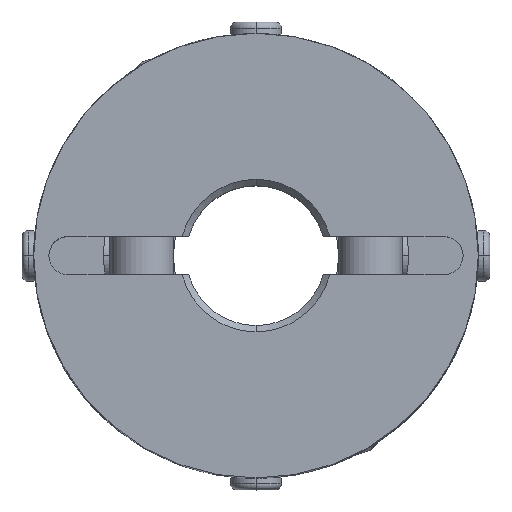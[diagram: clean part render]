
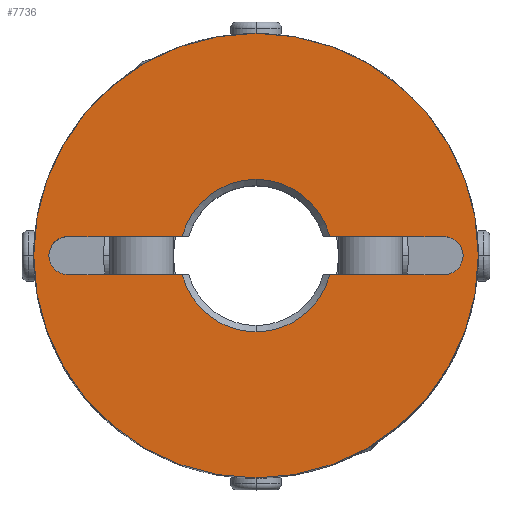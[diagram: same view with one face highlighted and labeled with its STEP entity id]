
A CAD part, top view. The second image highlights one B-rep face of the part: STEP entity #7736.
In plain terms, the highlighted planar face has unit normal (0, 0, 1).
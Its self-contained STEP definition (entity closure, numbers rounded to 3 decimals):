
#785=CARTESIAN_POINT('',(0.,17.5,17.5));
#786=VERTEX_POINT('',#785);
#793=CARTESIAN_POINT('',(0.,-17.5,17.5));
#794=VERTEX_POINT('',#793);
#795=CARTESIAN_POINT('',(0.0,0.0,17.5));
#796=DIRECTION('',(0.0,0.0,-1.0));
#797=DIRECTION('',(0.0,-1.0,0.0));
#798=AXIS2_PLACEMENT_3D('',#795,#796,#797);
#799=CIRCLE('',#798,17.5);
#800=EDGE_CURVE('',#786,#794,#799,.T.);
#1115=CARTESIAN_POINT('',(15.861,1.061,17.5));
#1116=VERTEX_POINT('',#1115);
#1132=CARTESIAN_POINT('',(14.8,-1.5,17.5));
#1133=VERTEX_POINT('',#1132);
#1140=CARTESIAN_POINT('',(14.8,0.,17.5));
#1141=DIRECTION('',(0.0,0.0,1.0));
#1142=DIRECTION('',(0.707,-0.707,0.0));
#1143=AXIS2_PLACEMENT_3D('',#1140,#1141,#1142);
#1144=CIRCLE('',#1143,1.5);
#1145=EDGE_CURVE('',#1133,#1116,#1144,.T.);
#1157=CARTESIAN_POINT('',(-15.861,-1.061,17.5));
#1158=VERTEX_POINT('',#1157);
#1174=CARTESIAN_POINT('',(-14.8,1.5,17.5));
#1175=VERTEX_POINT('',#1174);
#1182=CARTESIAN_POINT('',(-14.8,0.,17.5));
#1183=DIRECTION('',(0.0,0.0,1.0));
#1184=DIRECTION('',(-0.707,0.707,0.0));
#1185=AXIS2_PLACEMENT_3D('',#1182,#1183,#1184);
#1186=CIRCLE('',#1185,1.5);
#1187=EDGE_CURVE('',#1175,#1158,#1186,.T.);
#2307=CARTESIAN_POINT('',(0.,6.,17.5));
#2308=VERTEX_POINT('',#2307);
#2316=CARTESIAN_POINT('',(5.809,1.5,17.5));
#2317=VERTEX_POINT('',#2316);
#2331=CARTESIAN_POINT('',(0.,0.,17.5));
#2332=DIRECTION('',(0.0,0.0,1.0));
#2333=DIRECTION('',(0.0,1.0,0.0));
#2334=AXIS2_PLACEMENT_3D('',#2331,#2332,#2333);
#2335=CIRCLE('',#2334,6.0);
#2336=EDGE_CURVE('',#2317,#2308,#2335,.T.);
#2346=CARTESIAN_POINT('',(0.,-6.,17.5));
#2347=VERTEX_POINT('',#2346);
#2363=CARTESIAN_POINT('',(-5.809,-1.5,17.5));
#2364=VERTEX_POINT('',#2363);
#2378=CARTESIAN_POINT('',(0.,0.,17.5));
#2379=DIRECTION('',(0.0,0.0,1.0));
#2380=DIRECTION('',(0.0,-1.0,0.0));
#2381=AXIS2_PLACEMENT_3D('',#2378,#2379,#2380);
#2382=CIRCLE('',#2381,6.0);
#2383=EDGE_CURVE('',#2364,#2347,#2382,.T.);
#7452=CARTESIAN_POINT('',(14.8,1.5,17.5));
#7453=VERTEX_POINT('',#7452);
#7460=CARTESIAN_POINT('',(5.809,1.5,17.5));
#7461=DIRECTION('',(1.0,0.0,0.0));
#7462=VECTOR('',#7461,8.991);
#7463=LINE('',#7460,#7462);
#7464=EDGE_CURVE('',#2317,#7453,#7463,.T.);
#7621=CARTESIAN_POINT('',(5.809,-1.5,17.5));
#7622=VERTEX_POINT('',#7621);
#7636=CARTESIAN_POINT('',(14.8,-1.5,17.5));
#7637=DIRECTION('',(-1.0,0.0,0.0));
#7638=VECTOR('',#7637,8.991);
#7639=LINE('',#7636,#7638);
#7640=EDGE_CURVE('',#1133,#7622,#7639,.T.);
#7663=CARTESIAN_POINT('',(0.,0.,17.5));
#7664=DIRECTION('',(0.0,0.0,1.0));
#7665=DIRECTION('',(0.0,-1.0,0.0));
#7666=AXIS2_PLACEMENT_3D('',#7663,#7664,#7665);
#7667=CIRCLE('',#7666,6.0);
#7668=EDGE_CURVE('',#2347,#7622,#7667,.T.);
#7675=CARTESIAN_POINT('',(0.,-1.591,17.5));
#7676=DIRECTION('',(0.0,0.0,1.0));
#7677=DIRECTION('',(0.0,-1.0,0.0));
#7678=AXIS2_PLACEMENT_3D('',#7675,#7676,#7677);
#7679=PLANE('',#7678);
#7680=CARTESIAN_POINT('',(0.0,0.0,17.5));
#7681=DIRECTION('',(0.0,0.0,-1.0));
#7682=DIRECTION('',(0.0,-1.0,0.0));
#7683=AXIS2_PLACEMENT_3D('',#7680,#7681,#7682);
#7684=CIRCLE('',#7683,17.5);
#7685=EDGE_CURVE('',#794,#786,#7684,.T.);
#7686=ORIENTED_EDGE('',*,*,#7685,.F.);
#7687=ORIENTED_EDGE('',*,*,#800,.F.);
#7688=EDGE_LOOP('',(#7686,#7687));
#7689=FACE_OUTER_BOUND('',#7688,.T.);
#7690=ORIENTED_EDGE('',*,*,#2383,.F.);
#7691=CARTESIAN_POINT('',(-14.8,-1.5,17.5));
#7692=VERTEX_POINT('',#7691);
#7693=CARTESIAN_POINT('',(-5.809,-1.5,17.5));
#7694=DIRECTION('',(-1.0,0.0,0.0));
#7695=VECTOR('',#7694,8.991);
#7696=LINE('',#7693,#7695);
#7697=EDGE_CURVE('',#2364,#7692,#7696,.T.);
#7698=ORIENTED_EDGE('',*,*,#7697,.T.);
#7699=CARTESIAN_POINT('',(-14.8,0.,17.5));
#7700=DIRECTION('',(0.0,0.0,1.0));
#7701=DIRECTION('',(-0.707,0.707,0.0));
#7702=AXIS2_PLACEMENT_3D('',#7699,#7700,#7701);
#7703=CIRCLE('',#7702,1.5);
#7704=EDGE_CURVE('',#1158,#7692,#7703,.T.);
#7705=ORIENTED_EDGE('',*,*,#7704,.F.);
#7706=ORIENTED_EDGE('',*,*,#1187,.F.);
#7707=CARTESIAN_POINT('',(-5.809,1.5,17.5));
#7708=VERTEX_POINT('',#7707);
#7709=CARTESIAN_POINT('',(-14.8,1.5,17.5));
#7710=DIRECTION('',(1.0,0.0,0.0));
#7711=VECTOR('',#7710,8.991);
#7712=LINE('',#7709,#7711);
#7713=EDGE_CURVE('',#1175,#7708,#7712,.T.);
#7714=ORIENTED_EDGE('',*,*,#7713,.T.);
#7715=CARTESIAN_POINT('',(0.,0.,17.5));
#7716=DIRECTION('',(0.0,0.0,1.0));
#7717=DIRECTION('',(0.0,1.0,0.0));
#7718=AXIS2_PLACEMENT_3D('',#7715,#7716,#7717);
#7719=CIRCLE('',#7718,6.0);
#7720=EDGE_CURVE('',#2308,#7708,#7719,.T.);
#7721=ORIENTED_EDGE('',*,*,#7720,.F.);
#7722=ORIENTED_EDGE('',*,*,#2336,.F.);
#7723=ORIENTED_EDGE('',*,*,#7464,.T.);
#7724=CARTESIAN_POINT('',(14.8,0.,17.5));
#7725=DIRECTION('',(0.0,0.0,1.0));
#7726=DIRECTION('',(0.707,-0.707,0.0));
#7727=AXIS2_PLACEMENT_3D('',#7724,#7725,#7726);
#7728=CIRCLE('',#7727,1.5);
#7729=EDGE_CURVE('',#1116,#7453,#7728,.T.);
#7730=ORIENTED_EDGE('',*,*,#7729,.F.);
#7731=ORIENTED_EDGE('',*,*,#1145,.F.);
#7732=ORIENTED_EDGE('',*,*,#7640,.T.);
#7733=ORIENTED_EDGE('',*,*,#7668,.F.);
#7734=EDGE_LOOP('',(#7690,#7698,#7705,#7706,#7714,#7721,#7722,#7723,#7730,#7731,#7732,#7733));
#7735=FACE_BOUND('',#7734,.T.);
#7736=ADVANCED_FACE('',(#7689,#7735),#7679,.T.);
